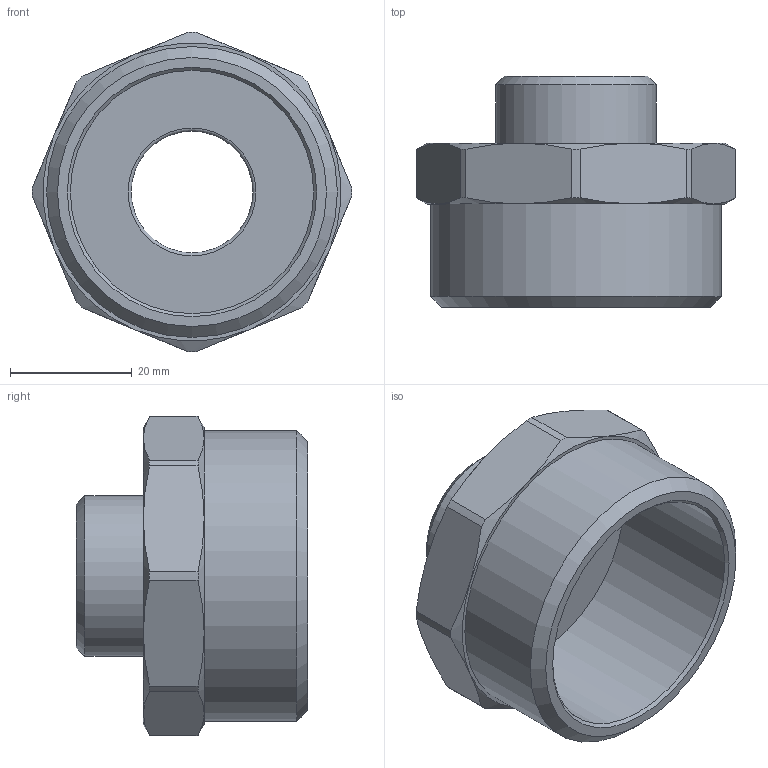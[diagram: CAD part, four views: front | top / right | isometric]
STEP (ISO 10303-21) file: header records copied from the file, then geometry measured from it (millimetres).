
FILE_DESCRIPTION(('STEP AP203'), '1');
FILE_NAME('ÂÐ.753157.008 - VTr.580.N.0805 Íèïïåëü G1 1-2xG3-4', '2024-07-03T10:19:49', ('Boss'), (''), 'C3D Converter', 'C3D Toolkit', '');
FILE_SCHEMA(('CONFIG_CONTROL_DESIGN'));
Length unit declared in the file: millimetre
Products named in the file (1): ВР.753157.008
Bounding box: 52.5 x 38 x 52.5 mm (x, y, z)
Volume: 21456.9 mm3; surface area: 11929.9 mm2
Topology: 1 solids, 1 shells, 46 faces, 102 edges, 61 vertices
Faces by surface type: cone 20, plane 13, cylinder 12, torus 1
Full cylindrical faces by diameter (mm): 20 x1, 26.441 x1, 40 x1, 47.803 x1
Entity records: 1989 total; most frequent: CARTESIAN_POINT 1077, DIRECTION 184, ORIENTED_EDGE 170, EDGE_CURVE 85, AXIS2_PLACEMENT_3D 84, VERTEX_POINT 57, EDGE_LOOP 56, ADVANCED_FACE 42
